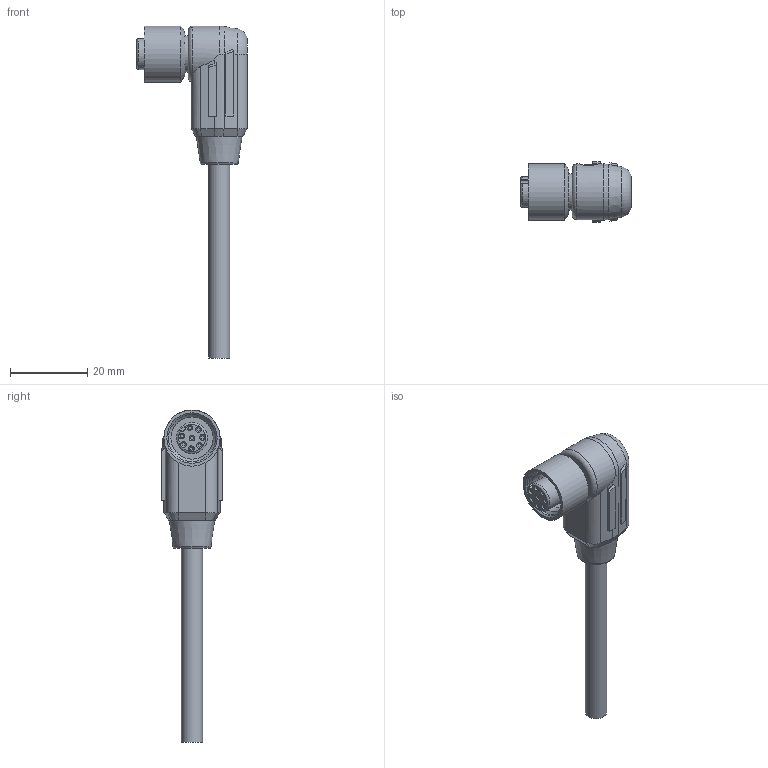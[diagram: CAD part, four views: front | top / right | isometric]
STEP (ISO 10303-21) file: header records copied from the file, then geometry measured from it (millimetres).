
FILE_DESCRIPTION( ( 'Unknown' ), '1' );
FILE_NAME( 'C:/Users/txr10011/Documents/1_in Bearbeitung/151016/Hüllmodelle/RKWTH 8-299_xxM.stp', 'Unknown', ( 'Unknown' ), ( 'Unknown' ), 'PSStep 17.0.49', 'Unknown', ' ' );
FILE_SCHEMA( ( 'AUTOMOTIVE_DESIGN { 1 0 10303 214 1 1 1 1 }' ) );
Length unit declared in the file: millimetre
Products named in the file (1): RKTS 8
Bounding box: 28.55 x 15.5 x 85.75 mm (x, y, z)
Volume: 8563.3 mm3; surface area: 4041.3 mm2
Topology: 1 solids, 1 shells, 142 faces, 344 edges, 222 vertices
Faces by surface type: plane 82, cylinder 29, cone 19, torus 7, extrusion 4, sphere 1
Full cylindrical faces by diameter (mm): 0.9 x8, 5 x1, 5.5 x1, 9.4 x1, 10.917 x1, 11.5 x1, 12.2 x1, 14.5 x1
Entity records: 5531 total; most frequent: CARTESIAN_POINT 1192, DIRECTION 667, ORIENTED_EDGE 608, EDGE_CURVE 304, AXIS2_PLACEMENT_3D 244, VERTEX_POINT 211, EDGE_LOOP 189, VECTOR 179
